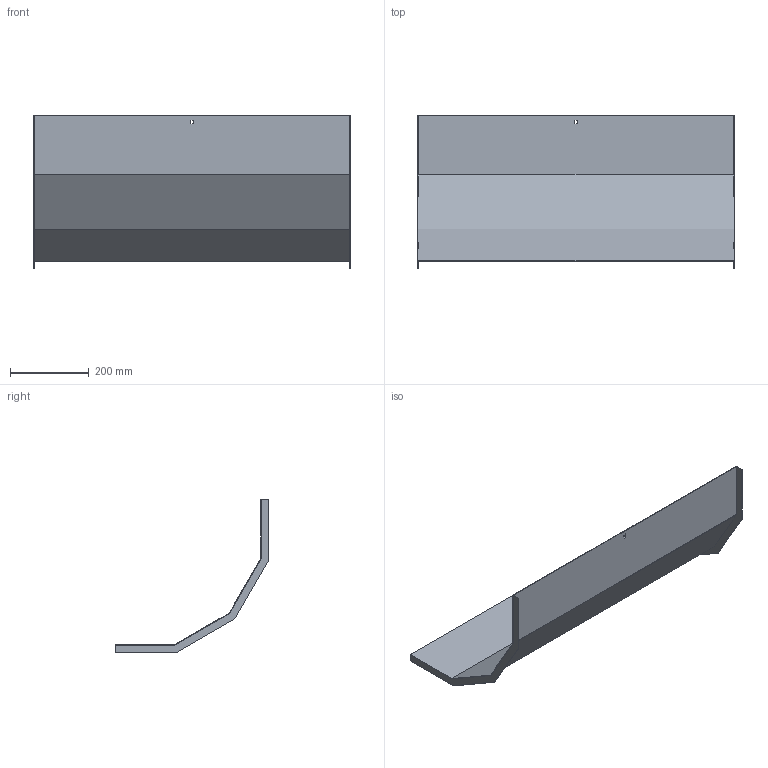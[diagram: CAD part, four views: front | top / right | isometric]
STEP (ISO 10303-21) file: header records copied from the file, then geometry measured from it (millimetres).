
FILE_DESCRIPTION (( 'STEP AP214' ), '1' );
FILE_NAME ('A2X30N3R800X.step', '2025-04-02T08:34:35', ( '' ), ( '' ), 'SwSTEP 2.0', 'SolidWorks 2023', '' );
FILE_SCHEMA (( 'AUTOMOTIVE_DESIGN' ));
Length unit declared in the file: millimetre
Products named in the file (1): A2X30N3R800X
Bounding box: 803 x 388.95 x 388.95 mm (x, y, z)
Volume: 783940 mm3; surface area: 1049820.4 mm2
Topology: 1 solids, 1 shells, 30 faces, 84 edges, 56 vertices
Faces by surface type: plane 30
Entity records: 979 total; most frequent: CARTESIAN_POINT 171, ORIENTED_EDGE 168, DIRECTION 146, EDGE_CURVE 84, VECTOR 84, LINE 84, VERTEX_POINT 56, EDGE_LOOP 34
